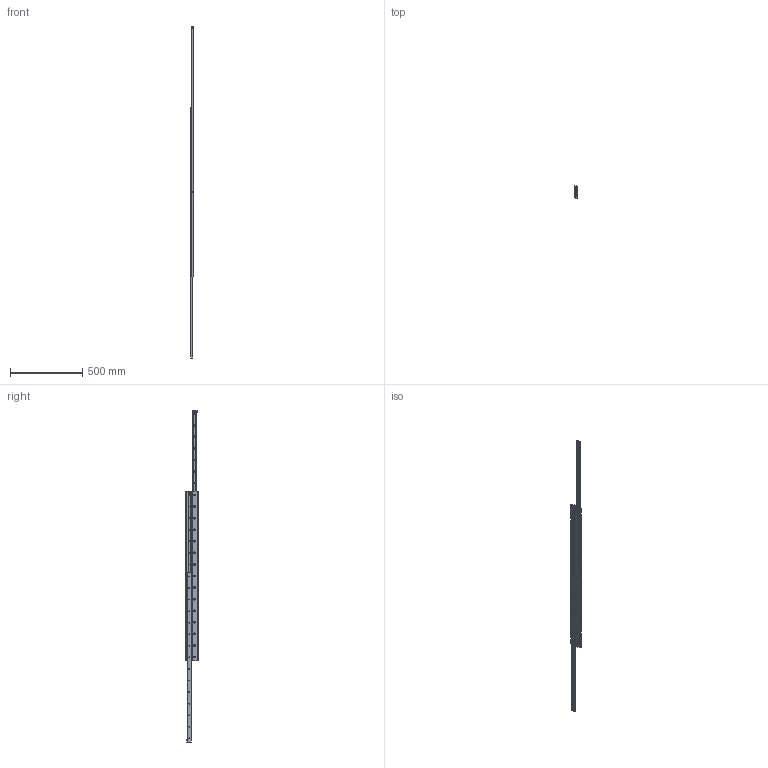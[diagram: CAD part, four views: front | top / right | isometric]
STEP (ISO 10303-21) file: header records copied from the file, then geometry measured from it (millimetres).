
FILE_DESCRIPTION (( 'STEP AP203' ), '1' );
FILE_NAME ('L1984.28D-1170.step', '2018-07-03T12:16:13', ( '' ), ( '' ), 'SwSTEP 2.0', 'SolidWorks 2017', '' );
FILE_SCHEMA (( 'CONFIG_CONTROL_DESIGN' ));
Length unit declared in the file: millimetre
Products named in the file (5): Part3_L1984.28D-1170; Part2_L1984.28D-1170; L1984.28D-1170; Part1_L1984.28D-1170; Part0_L1984.28D-1170
Assembly tree (7 placements, depth 2):
  L1984.28D-1170
    Part0_L1984.28D-1170
    Part2_L1984.28D-1170  x2
    Part1_L1984.28D-1170  x2
    Part3_L1984.28D-1170  x2
Bounding box: 17 x 84 x 2296 mm (x, y, z)
Volume: 1002679.7 mm3; surface area: 689390.8 mm2
Topology: 7 solids, 7 shells, 722 faces, 1822 edges, 1212 vertices
Faces by surface type: plane 472, cylinder 130, cone 120
Entity records: 16506 total; most frequent: CARTESIAN_POINT 2755, DIRECTION 2735, ORIENTED_EDGE 2658, EDGE_CURVE 1329, VECTOR 1007, LINE 1007, VERTEX_POINT 884, AXIS2_PLACEMENT_3D 864
